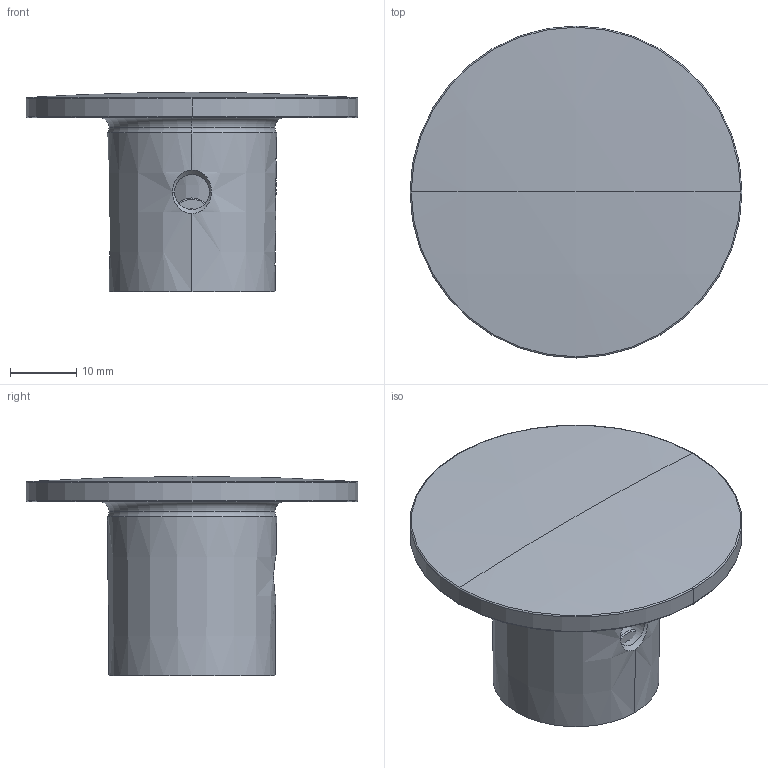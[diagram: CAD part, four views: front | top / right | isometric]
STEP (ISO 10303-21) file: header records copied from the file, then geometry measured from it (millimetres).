
FILE_DESCRIPTION (( 'STEP AP203' ), '1' );
FILE_NAME ('3-81153-0011D3S.STEP', '2023-10-17T08:48:19', ( '' ), ( '' ), 'SwSTEP 2.0', 'SolidWorks 2016', '' );
FILE_SCHEMA (( 'CONFIG_CONTROL_DESIGN' ));
Length unit declared in the file: millimetre
Products named in the file (1): 3-81153-0011D3S
Bounding box: 50 x 50 x 30 mm (x, y, z)
Volume: 18285.2 mm3; surface area: 8848.8 mm2
Topology: 3 solids, 3 shells, 138 faces, 342 edges, 218 vertices
Faces by surface type: plane 83, cylinder 16, cone 16, torus 14, bspline 7, sphere 2
Entity records: 4403 total; most frequent: CARTESIAN_POINT 1112, ORIENTED_EDGE 680, DIRECTION 645, EDGE_CURVE 340, AXIS2_PLACEMENT_3D 232, VERTEX_POINT 218, VECTOR 181, LINE 181
